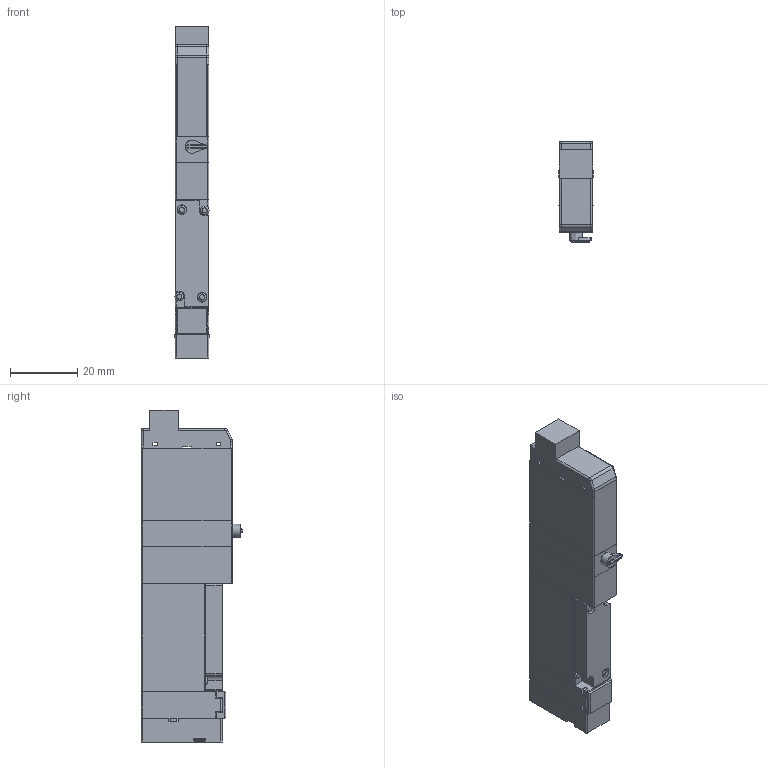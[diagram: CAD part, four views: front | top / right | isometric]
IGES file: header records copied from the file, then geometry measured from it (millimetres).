
Start section: ------------------------------------------------------------------------
Global section: file name: D:\ICADMX\tmp\trans3d_spg\CVICAD02.18204.F10T1-R-A1-PN_8595.igs; native system: spGate; preprocessor: ver12.6.6; author: Unknown; organization: Unknown; date: 200901.142432; units: millimetre
Bounding box: 10.2 x 30 x 98.5 mm (x, y, z)
Surface area: 11212 mm2 (no closed solid volume)
Topology: 0 solids, 0 shells, 283 faces, 1462 edges, 1436 vertices
Faces by surface type: bspline 283
